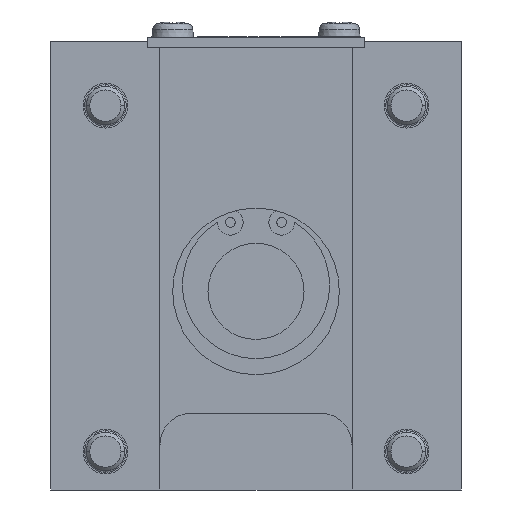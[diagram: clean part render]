
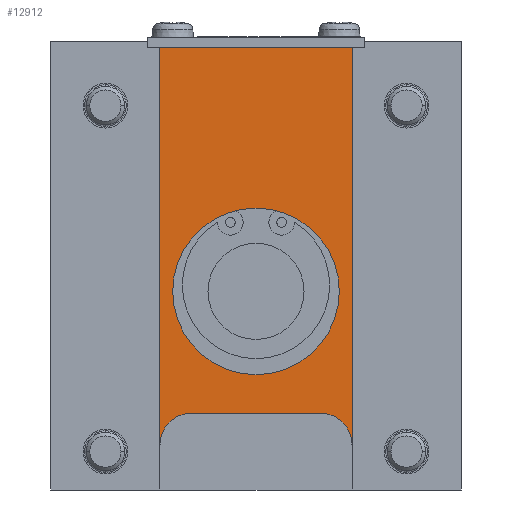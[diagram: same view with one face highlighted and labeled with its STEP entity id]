
A CAD part, front view. The second image highlights one B-rep face of the part: STEP entity #12912.
In plain terms, the highlighted planar face has unit normal (0, -1, 0).
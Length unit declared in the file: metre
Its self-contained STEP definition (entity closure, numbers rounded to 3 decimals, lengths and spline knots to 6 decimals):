
#110 = CIRCLE ( 'NONE', #3086, 0.013 ) ;
#143 = VECTOR ( 'NONE', #16731, 1. ) ;
#721 = EDGE_CURVE ( 'NONE', #9363, #10937, #110, .T. ) ;
#947 = AXIS2_PLACEMENT_3D ( 'NONE', #3995, #4009, #4020 ) ;
#1230 = DIRECTION ( 'NONE',  ( 0., -1., 0. ) ) ;
#1305 = ORIENTED_EDGE ( 'NONE', *, *, #3908, .T. ) ;
#1354 = CARTESIAN_POINT ( 'NONE',  ( 0.015, 0., -0.024 ) ) ;
#1867 = ORIENTED_EDGE ( 'NONE', *, *, #721, .F. ) ;
#2205 = ORIENTED_EDGE ( 'NONE', *, *, #12547, .T. ) ;
#2564 = AXIS2_PLACEMENT_3D ( 'NONE', #7686, #1230, #10332 ) ;
#2897 = CARTESIAN_POINT ( 'NONE',  ( 0., 0., 0. ) ) ;
#2955 = DIRECTION ( 'NONE',  ( 0., -1., 0. ) ) ;
#2972 = DIRECTION ( 'NONE',  ( 0., 0., -1. ) ) ;
#3086 = AXIS2_PLACEMENT_3D ( 'NONE', #10766, #8260, #4606 ) ;
#3537 = CARTESIAN_POINT ( 'NONE',  ( 0.01, 0., -0.019 ) ) ;
#3908 = EDGE_CURVE ( 'NONE', #12823, #15566, #4676, .T. ) ;
#3954 = LINE ( 'NONE', #10344, #10500 ) ;
#3973 = LINE ( 'NONE', #10261, #143 ) ;
#3995 = CARTESIAN_POINT ( 'NONE',  ( 0.01, 0., -0.024 ) ) ;
#4009 = DIRECTION ( 'NONE',  ( 0., 1., 0. ) ) ;
#4020 = DIRECTION ( 'NONE',  ( 0., 0., -1. ) ) ;
#4098 = CARTESIAN_POINT ( 'NONE',  ( -0.01, 0., -0.024 ) ) ;
#4101 = DIRECTION ( 'NONE',  ( 0., 1., 0. ) ) ;
#4123 = DIRECTION ( 'NONE',  ( 0., 0., -1. ) ) ;
#4394 = CARTESIAN_POINT ( 'NONE',  ( 0., 0., 0.038 ) ) ;
#4606 = DIRECTION ( 'NONE',  ( 0., 0., -1. ) ) ;
#4676 = CIRCLE ( 'NONE', #947, 0.005 ) ;
#4705 = ORIENTED_EDGE ( 'NONE', *, *, #10435, .F. ) ;
#4976 = FACE_BOUND ( 'NONE', #11920, .T. ) ;
#5434 = EDGE_CURVE ( 'NONE', #15566, #13813, #13986, .T. ) ;
#5839 = CARTESIAN_POINT ( 'NONE',  ( -0.01, 0., -0.019 ) ) ;
#6191 = ORIENTED_EDGE ( 'NONE', *, *, #6813, .T. ) ;
#6493 = CARTESIAN_POINT ( 'NONE',  ( 0., 0., -0.013 ) ) ;
#6813 = EDGE_CURVE ( 'NONE', #7313, #7023, #10402, .T. ) ;
#7023 = VERTEX_POINT ( 'NONE', #5839 ) ;
#7209 = ORIENTED_EDGE ( 'NONE', *, *, #5434, .T. ) ;
#7313 = VERTEX_POINT ( 'NONE', #8511 ) ;
#7634 = CARTESIAN_POINT ( 'NONE',  ( 0.015, 0., 0.038 ) ) ;
#7666 = AXIS2_PLACEMENT_3D ( 'NONE', #2897, #2955, #2972 ) ;
#7686 = CARTESIAN_POINT ( 'NONE',  ( -0.015, 0., 0.038 ) ) ;
#7966 = VERTEX_POINT ( 'NONE', #12974 ) ;
#8260 = DIRECTION ( 'NONE',  ( 0., -1., 0. ) ) ;
#8511 = CARTESIAN_POINT ( 'NONE',  ( -0.015, 0., -0.024 ) ) ;
#8843 = FACE_OUTER_BOUND ( 'NONE', #14297, .T. ) ;
#9175 = CARTESIAN_POINT ( 'NONE',  ( 0., 0., 0.013 ) ) ;
#9334 = CIRCLE ( 'NONE', #7666, 0.013 ) ;
#9363 = VERTEX_POINT ( 'NONE', #6493 ) ;
#10261 = CARTESIAN_POINT ( 'NONE',  ( -0.015, 0., 0.006814 ) ) ;
#10332 = DIRECTION ( 'NONE',  ( 0., 0., -1. ) ) ;
#10344 = CARTESIAN_POINT ( 'NONE',  ( 0., 0., -0.019 ) ) ;
#10402 = CIRCLE ( 'NONE', #15602, 0.005 ) ;
#10435 = EDGE_CURVE ( 'NONE', #10937, #9363, #9334, .T. ) ;
#10500 = VECTOR ( 'NONE', #14156, 1. ) ;
#10766 = CARTESIAN_POINT ( 'NONE',  ( 0., 0., 0. ) ) ;
#10937 = VERTEX_POINT ( 'NONE', #9175 ) ;
#11920 = EDGE_LOOP ( 'NONE', ( #1867, #4705 ) ) ;
#12002 = EDGE_CURVE ( 'NONE', #7966, #7313, #3973, .T. ) ;
#12547 = EDGE_CURVE ( 'NONE', #7023, #12823, #3954, .T. ) ;
#12668 = PLANE ( 'NONE',  #2564 ) ;
#12823 = VERTEX_POINT ( 'NONE', #3537 ) ;
#12912 = ADVANCED_FACE ( 'NONE', ( #4976, #8843 ), #12668, .T. ) ;
#12974 = CARTESIAN_POINT ( 'NONE',  ( -0.015, 0., 0.038 ) ) ;
#13423 = DIRECTION ( 'NONE',  ( -1., 0., 0. ) ) ;
#13570 = VECTOR ( 'NONE', #14340, 1. ) ;
#13813 = VERTEX_POINT ( 'NONE', #7634 ) ;
#13986 = LINE ( 'NONE', #14325, #13570 ) ;
#14156 = DIRECTION ( 'NONE',  ( 1., 0., 0. ) ) ;
#14297 = EDGE_LOOP ( 'NONE', ( #15139, #6191, #2205, #1305, #7209, #14333 ) ) ;
#14325 = CARTESIAN_POINT ( 'NONE',  ( 0.015, 0., 0.006814 ) ) ;
#14333 = ORIENTED_EDGE ( 'NONE', *, *, #15254, .T. ) ;
#14340 = DIRECTION ( 'NONE',  ( 0., 0., 1. ) ) ;
#15139 = ORIENTED_EDGE ( 'NONE', *, *, #12002, .T. ) ;
#15254 = EDGE_CURVE ( 'NONE', #13813, #7966, #16185, .T. ) ;
#15566 = VERTEX_POINT ( 'NONE', #1354 ) ;
#15602 = AXIS2_PLACEMENT_3D ( 'NONE', #4098, #4101, #4123 ) ;
#16185 = LINE ( 'NONE', #4394, #16597 ) ;
#16597 = VECTOR ( 'NONE', #13423, 1. ) ;
#16731 = DIRECTION ( 'NONE',  ( 0., 0., -1. ) ) ;
